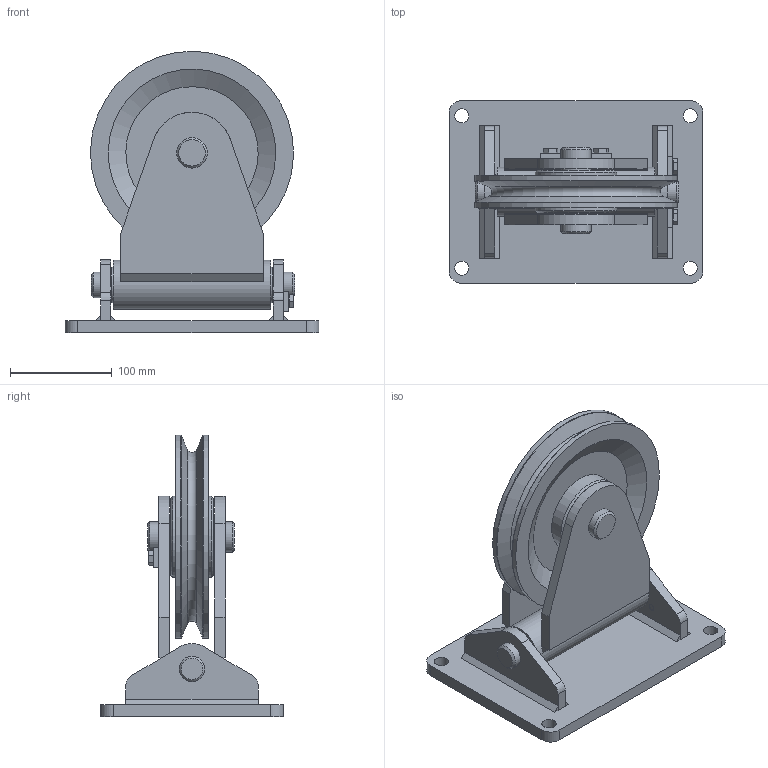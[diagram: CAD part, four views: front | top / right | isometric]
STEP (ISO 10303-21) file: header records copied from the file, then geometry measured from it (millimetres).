
FILE_DESCRIPTION(/* description */ ('Seilrolle ø200 einfach Schwenkbar SE 200 G'),/* implementation_level */ '2;1');
FILE_NAME(/* name */ 'Z:\Workspace\03 Seilrollen\1.409 Seilrollen einfach schwenkbar Gleitlager\1.409.03 Seilrolle ø200 einfach schwenkbar SE 200 G\1.409.03 Seilrolle ø200 einfach Schwenkbar SE 200 G.stp',/* time_stamp */ '2021-10-18T12:25:52+02:00',/* author */ ('cad-user'),/* organization */ (''),/* preprocessor_version */ 'ST-DEVELOPER v18',/* originating_system */ 'Autodesk Inventor 2020',/* authorisation */ '');
FILE_SCHEMA (('AUTOMOTIVE_DESIGN { 1 0 10303 214 3 1 1 }'));
Length unit declared in the file: millimetre
Products named in the file (19): 1.409.03 Seilrolle ø200 einfach Schwenkbar SE 200 G; 1.409.03.01 Konsole Schweißteil; 1.409.03.01 Konsole Schweißteil_1; 1.409.03.02 Platte 1; 1.409.03.03 Platte 2; 1.409.03.03 Platte 2_1; 1.409.03.06  Schwenkkonsole Schweißteil; 1.409.03.06  Schwenkkonsole Schweißteil_1; 1.409.03.05 Rohr; 1.409.03.04 Platte 3; 1.409.03.04 Platte 3_1; 1.409.03.07 Achse 1; 1.409.03.08 Achse 2; 1.401.06 Seilrolle ø200 Buchse komplett; 1.401.06 Seilrolle ø200 Buchse B=42; 3020DU; 1.409.03.09 Lasche; DIN 933 - M8  x 14; BB2522DU
Assembly tree (24 placements, depth 3):
  1.409.03 Seilrolle ø200 einfach Schwenkbar SE 200 G
    1.409.03.01 Konsole Schweißteil
      1.409.03.01 Konsole Schweißteil_1
      1.409.03.02 Platte 1
      1.409.03.03 Platte 2
      1.409.03.03 Platte 2_1
    1.409.03.06  Schwenkkonsole Schweißteil
      1.409.03.06  Schwenkkonsole Schweißteil_1
      1.409.03.05 Rohr
      1.409.03.04 Platte 3
      1.409.03.04 Platte 3_1
    1.409.03.07 Achse 1
    1.409.03.08 Achse 2
    1.401.06 Seilrolle ø200 Buchse komplett
      1.401.06 Seilrolle ø200 Buchse B=42
      3020DU  x2
    1.409.03.09 Lasche  x2
    DIN 933 - M8  x 14  x4
    BB2522DU  x2
Bounding box: 250 x 180 x 276.97 mm (x, y, z)
Volume: 1996513.6 mm3; surface area: 423103.5 mm2
Topology: 25 solids, 25 shells, 276 faces, 636 edges, 426 vertices
Faces by surface type: plane 156, cylinder 63, cone 50, torus 7
Full cylindrical faces by diameter (mm): 6.647 x4, 7.323 x4, 8 x4, 9 x4, 11.4 x4, 14 x4, 25 x3, 26 x1, 28 x2, 30 x3, 34 x1, 48.3 x1, 80 x2, 200 x2
Entity records: 6110 total; most frequent: DIRECTION 1032, CARTESIAN_POINT 1001, ORIENTED_EDGE 846, EDGE_CURVE 423, AXIS2_PLACEMENT_3D 398, VERTEX_POINT 287, LINE 236, VECTOR 236
